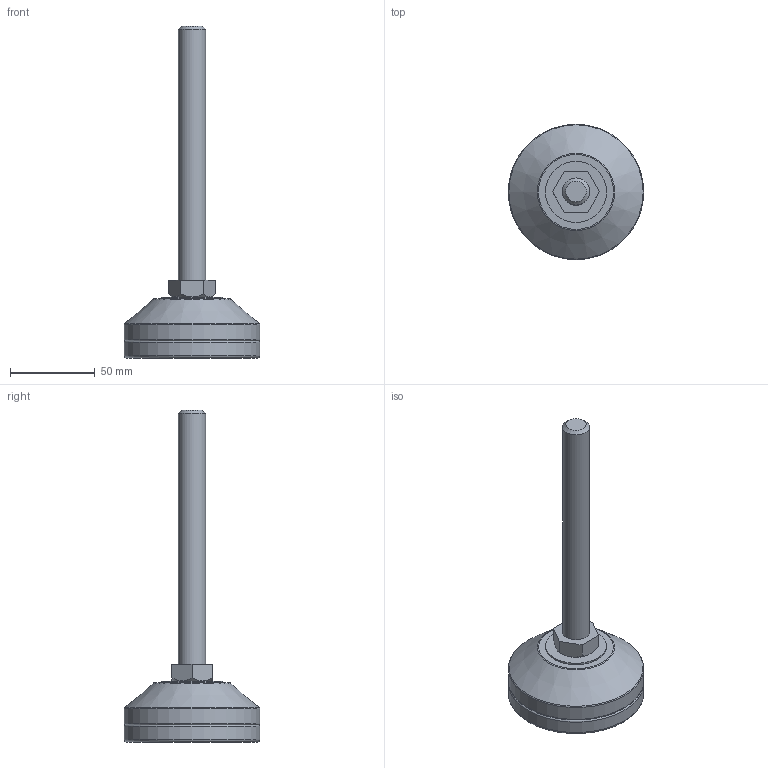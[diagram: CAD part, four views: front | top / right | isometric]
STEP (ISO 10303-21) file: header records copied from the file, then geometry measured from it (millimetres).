
FILE_DESCRIPTION(/* description */ (''),/* implementation_level */ '2;1');
FILE_NAME(/* name */ 'D:\조절자\FR\FR-M16-150L.stp',/* time_stamp */ '2016-03-14T14:38:13+09:00',/* author */ ('GS-DT-1-001'),/* organization */ (''),/* preprocessor_version */ 'ST-DEVELOPER v15.6',/* originating_system */ 'Autodesk Inventor LT ',/* authorisation */ '');
FILE_SCHEMA (('AUTOMOTIVE_DESIGN { 1 0 10303 214 3 1 1 }'));
Length unit declared in the file: millimetre
Products named in the file (1): FR-M16-150L
Bounding box: 80 x 80 x 196 mm (x, y, z)
Volume: 153104.1 mm3; surface area: 34958.8 mm2
Topology: 1 solids, 5 shells, 50 faces, 87 edges, 53 vertices
Faces by surface type: plane 22, cylinder 14, cone 8, torus 6
Full cylindrical faces by diameter (mm): 6.912 x1, 8 x1, 8.2 x1, 8.3 x1, 16 x2, 36 x1, 50 x1, 57 x1, 61 x1, 71 x1, 75 x1, 80 x2
Entity records: 1060 total; most frequent: DIRECTION 194, CARTESIAN_POINT 173, ORIENTED_EDGE 116, AXIS2_PLACEMENT_3D 91, EDGE_LOOP 88, EDGE_CURVE 58, VERTEX_POINT 52, FACE_OUTER_BOUND 50
